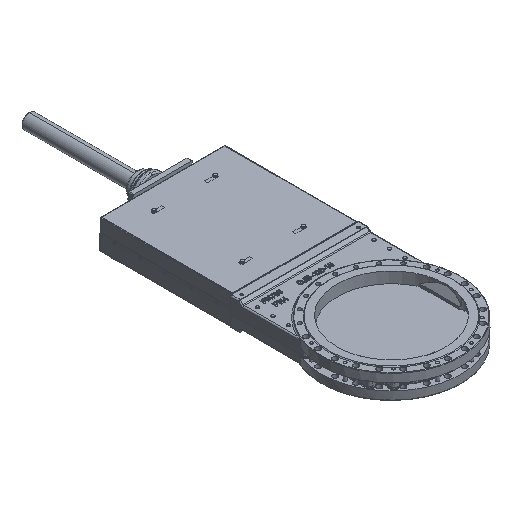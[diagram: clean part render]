
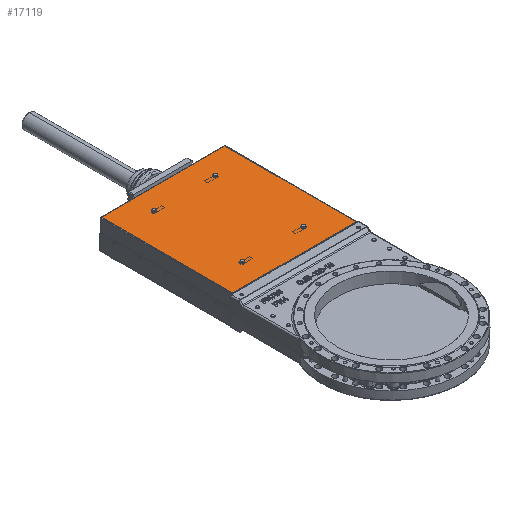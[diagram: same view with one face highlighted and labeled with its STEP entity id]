
A CAD part, isometric view. The second image highlights one B-rep face of the part: STEP entity #17119.
In plain terms, the highlighted planar face has unit normal (0, 0, 1).
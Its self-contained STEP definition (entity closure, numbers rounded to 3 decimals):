
#12791=PLANE('',#58320);
#17119=ADVANCED_FACE('',(#20405,#20406,#20407,#20408,#20409),#12791,.T.);
#20405=FACE_BOUND('',#24003,.T.);
#20406=FACE_BOUND('',#24004,.T.);
#20407=FACE_BOUND('',#24005,.T.);
#20408=FACE_BOUND('',#24006,.T.);
#20409=FACE_BOUND('',#24007,.T.);
#24003=EDGE_LOOP('',(#37105));
#24004=EDGE_LOOP('',(#37106));
#24005=EDGE_LOOP('',(#37107));
#24006=EDGE_LOOP('',(#37108));
#24007=EDGE_LOOP('',(#37109,#37110,#37111,#37112,#37113,#37114));
#26493=CIRCLE('',#58316,12.);
#26494=CIRCLE('',#58317,12.);
#26495=CIRCLE('',#58318,12.);
#26496=CIRCLE('',#58319,12.);
#37105=ORIENTED_EDGE('',*,*,#49011,.T.);
#37106=ORIENTED_EDGE('',*,*,#49012,.T.);
#37107=ORIENTED_EDGE('',*,*,#49013,.T.);
#37108=ORIENTED_EDGE('',*,*,#49014,.T.);
#37109=ORIENTED_EDGE('',*,*,#49015,.F.);
#37110=ORIENTED_EDGE('',*,*,#49016,.T.);
#37111=ORIENTED_EDGE('',*,*,#49017,.F.);
#37112=ORIENTED_EDGE('',*,*,#44777,.F.);
#37113=ORIENTED_EDGE('',*,*,#49018,.F.);
#37114=ORIENTED_EDGE('',*,*,#49019,.T.);
#40599=VERTEX_POINT('',#71598);
#40601=VERTEX_POINT('',#71601);
#43643=VERTEX_POINT('',#95051);
#43644=VERTEX_POINT('',#95053);
#43645=VERTEX_POINT('',#95055);
#43646=VERTEX_POINT('',#95057);
#43647=VERTEX_POINT('',#95059);
#43648=VERTEX_POINT('',#95060);
#43649=VERTEX_POINT('',#95062);
#43650=VERTEX_POINT('',#95065);
#44777=EDGE_CURVE('',#40599,#40601,#50650,.T.);
#49011=EDGE_CURVE('',#43643,#43643,#26493,.T.);
#49012=EDGE_CURVE('',#43644,#43644,#26494,.T.);
#49013=EDGE_CURVE('',#43645,#43645,#26495,.T.);
#49014=EDGE_CURVE('',#43646,#43646,#26496,.T.);
#49015=EDGE_CURVE('',#43647,#43648,#52388,.T.);
#49016=EDGE_CURVE('',#43647,#43649,#52389,.T.);
#49017=EDGE_CURVE('',#40601,#43649,#52390,.T.);
#49018=EDGE_CURVE('',#43650,#40599,#52391,.T.);
#49019=EDGE_CURVE('',#43650,#43648,#52392,.T.);
#50650=LINE('',#71600,#53022);
#52388=LINE('',#95058,#54762);
#52389=LINE('',#95061,#54763);
#52390=LINE('',#95063,#54764);
#52391=LINE('',#95064,#54765);
#52392=LINE('',#95066,#54766);
#53022=VECTOR('',#60042,1.);
#54762=VECTOR('',#67588,1.);
#54763=VECTOR('',#67589,1.);
#54764=VECTOR('',#67590,1.);
#54765=VECTOR('',#67591,1.);
#54766=VECTOR('',#67592,1.);
#58316=AXIS2_PLACEMENT_3D('',#95050,#67580,#67581);
#58317=AXIS2_PLACEMENT_3D('',#95052,#67582,#67583);
#58318=AXIS2_PLACEMENT_3D('',#95054,#67584,#67585);
#58319=AXIS2_PLACEMENT_3D('',#95056,#67586,#67587);
#58320=AXIS2_PLACEMENT_3D('',#95067,#67593,#67594);
#60042=DIRECTION('',(1.,0.,0.));
#67580=DIRECTION('',(0.,0.,-1.));
#67581=DIRECTION('',(1.,0.,0.));
#67582=DIRECTION('',(0.,0.,-1.));
#67583=DIRECTION('',(1.,0.,0.));
#67584=DIRECTION('',(0.,0.,-1.));
#67585=DIRECTION('',(0.,-1.,0.));
#67586=DIRECTION('',(0.,0.,-1.));
#67587=DIRECTION('',(0.,-1.,0.));
#67588=DIRECTION('',(-1.,0.,0.));
#67589=DIRECTION('',(0.,1.,0.));
#67590=DIRECTION('',(1.,0.,0.));
#67591=DIRECTION('',(1.,0.,0.));
#67592=DIRECTION('',(0.,-1.,0.));
#67593=DIRECTION('',(0.,0.,1.));
#67594=DIRECTION('',(1.,0.,0.));
#71598=CARTESIAN_POINT('',(-190.,1470.,107.));
#71600=CARTESIAN_POINT('',(0.,1470.,107.));
#71601=CARTESIAN_POINT('',(190.,1470.,107.));
#95050=CARTESIAN_POINT('',(197.,763.,107.));
#95051=CARTESIAN_POINT('',(209.,763.,107.));
#95052=CARTESIAN_POINT('',(197.,1330.,107.));
#95053=CARTESIAN_POINT('',(209.,1330.,107.));
#95054=CARTESIAN_POINT('',(-197.,763.,107.));
#95055=CARTESIAN_POINT('',(-197.,751.,107.));
#95056=CARTESIAN_POINT('',(-197.,1330.,107.));
#95057=CARTESIAN_POINT('',(-197.,1318.,107.));
#95058=CARTESIAN_POINT('',(0.,623.,107.));
#95059=CARTESIAN_POINT('',(397.75,623.,107.));
#95060=CARTESIAN_POINT('',(-397.75,623.,107.));
#95061=CARTESIAN_POINT('',(397.75,951.5,107.));
#95062=CARTESIAN_POINT('',(397.75,1470.,107.));
#95063=CARTESIAN_POINT('',(0.,1470.,107.));
#95064=CARTESIAN_POINT('',(0.,1470.,107.));
#95065=CARTESIAN_POINT('',(-397.75,1470.,107.));
#95066=CARTESIAN_POINT('',(-397.75,951.5,107.));
#95067=CARTESIAN_POINT('',(0.,951.5,107.));
